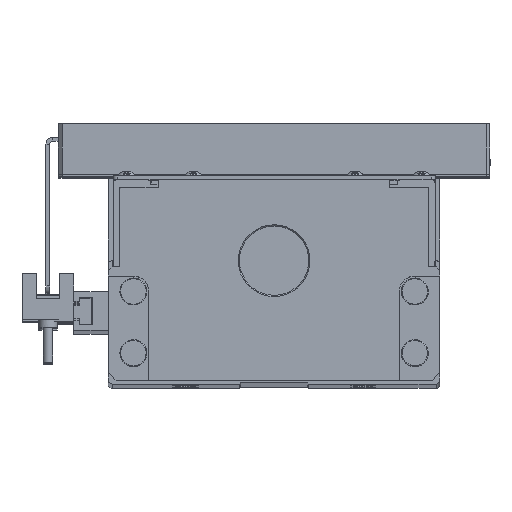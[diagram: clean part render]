
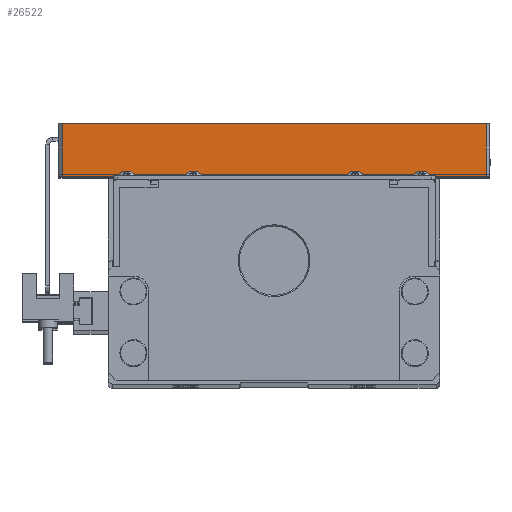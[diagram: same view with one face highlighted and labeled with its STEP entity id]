
A CAD part, top view. The second image highlights one B-rep face of the part: STEP entity #26522.
In plain terms, the highlighted planar face has unit normal (0, 0, 1).
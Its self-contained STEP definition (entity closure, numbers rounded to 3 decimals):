
#493 = VECTOR ( 'NONE', #34073, 1000. ) ;
#4871 = LINE ( 'NONE', #39837, #493 ) ;
#6155 = LINE ( 'NONE', #28181, #39116 ) ;
#7514 = CARTESIAN_POINT ( 'NONE',  ( -56., 54.3, 66.582 ) ) ;
#10368 = FACE_OUTER_BOUND ( 'NONE', #89868, .T. ) ;
#10997 = CARTESIAN_POINT ( 'NONE',  ( 55., 68., 66.582 ) ) ;
#20515 = DIRECTION ( 'NONE',  ( 0., -1., 0. ) ) ;
#21892 = DIRECTION ( 'NONE',  ( -1., 0., 0. ) ) ;
#23872 = EDGE_CURVE ( 'NONE', #42855, #61444, #6155, .T. ) ;
#25235 = DIRECTION ( 'NONE',  ( 1., 0., 0. ) ) ;
#26522 = ADVANCED_FACE ( 'NONE', ( #10368 ), #54388, .T. ) ;
#28181 = CARTESIAN_POINT ( 'NONE',  ( -55., 54.3, 66.582 ) ) ;
#30279 = EDGE_CURVE ( 'NONE', #42855, #33873, #4871, .T. ) ;
#31461 = CARTESIAN_POINT ( 'NONE',  ( 0., 68., 66.582 ) ) ;
#33873 = VERTEX_POINT ( 'NONE', #10997 ) ;
#34073 = DIRECTION ( 'NONE',  ( 1., 0., 0. ) ) ;
#35026 = EDGE_CURVE ( 'NONE', #49741, #33873, #59047, .T. ) ;
#35059 = AXIS2_PLACEMENT_3D ( 'NONE', #31461, #40075, #25235 ) ;
#39116 = VECTOR ( 'NONE', #20515, 1000. ) ;
#39837 = CARTESIAN_POINT ( 'NONE',  ( 56., 68., 66.582 ) ) ;
#40075 = DIRECTION ( 'NONE',  ( 0., 0., 1. ) ) ;
#41051 = CARTESIAN_POINT ( 'NONE',  ( 55., 54.3, 66.582 ) ) ;
#42855 = VERTEX_POINT ( 'NONE', #43248 ) ;
#43248 = CARTESIAN_POINT ( 'NONE',  ( -55., 68., 66.582 ) ) ;
#44722 = DIRECTION ( 'NONE',  ( 0., 1., 0. ) ) ;
#47946 = ORIENTED_EDGE ( 'NONE', *, *, #84498, .F. ) ;
#49741 = VERTEX_POINT ( 'NONE', #41051 ) ;
#52178 = VECTOR ( 'NONE', #21892, 1000. ) ;
#54388 = PLANE ( 'NONE',  #35059 ) ;
#59047 = LINE ( 'NONE', #68110, #84084 ) ;
#59239 = ORIENTED_EDGE ( 'NONE', *, *, #35026, .T. ) ;
#61444 = VERTEX_POINT ( 'NONE', #77319 ) ;
#68110 = CARTESIAN_POINT ( 'NONE',  ( 55., 68., 66.582 ) ) ;
#77319 = CARTESIAN_POINT ( 'NONE',  ( -55., 54.3, 66.582 ) ) ;
#81316 = ORIENTED_EDGE ( 'NONE', *, *, #30279, .F. ) ;
#81679 = LINE ( 'NONE', #7514, #52178 ) ;
#83097 = ORIENTED_EDGE ( 'NONE', *, *, #23872, .T. ) ;
#84084 = VECTOR ( 'NONE', #44722, 1000. ) ;
#84498 = EDGE_CURVE ( 'NONE', #49741, #61444, #81679, .T. ) ;
#89868 = EDGE_LOOP ( 'NONE', ( #47946, #59239, #81316, #83097 ) ) ;
